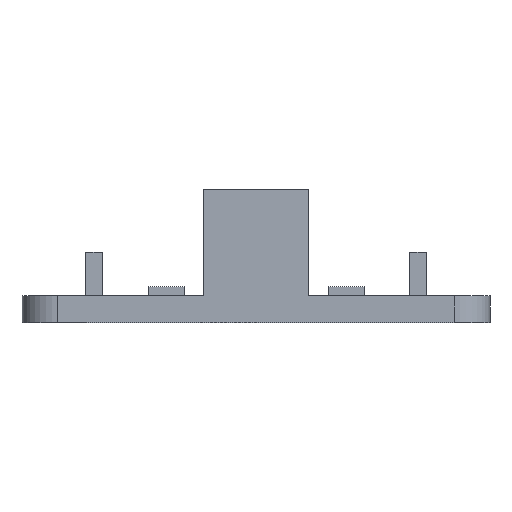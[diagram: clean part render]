
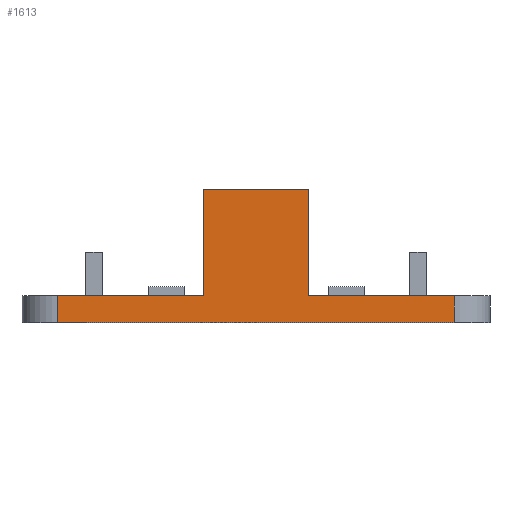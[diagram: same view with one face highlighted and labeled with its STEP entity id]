
A CAD part, left-side view. The second image highlights one B-rep face of the part: STEP entity #1613.
In plain terms, the highlighted planar face has unit normal (-1, 0, 0).
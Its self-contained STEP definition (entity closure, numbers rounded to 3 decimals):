
#44 = PLANE('',#45);
#45 = AXIS2_PLACEMENT_3D('',#46,#47,#48);
#46 = CARTESIAN_POINT('',(0.,0.,3.));
#47 = DIRECTION('',(0.,0.,-1.));
#48 = DIRECTION('',(1.,0.,0.));
#72 = CYLINDRICAL_SURFACE('',#73,4.);
#73 = AXIS2_PLACEMENT_3D('',#74,#75,#76);
#74 = CARTESIAN_POINT('',(-27.,22.,3.));
#75 = DIRECTION('',(0.,0.,-1.));
#76 = DIRECTION('',(0.,1.,0.));
#100 = PLANE('',#101);
#101 = AXIS2_PLACEMENT_3D('',#102,#103,#104);
#102 = CARTESIAN_POINT('',(0.,0.,0.));
#103 = DIRECTION('',(0.,0.,-1.));
#104 = DIRECTION('',(1.,0.,0.));
#142 = VERTEX_POINT('',#143);
#143 = CARTESIAN_POINT('',(-31.,22.,3.));
#280 = VERTEX_POINT('',#281);
#281 = CARTESIAN_POINT('',(-31.,-22.,3.));
#296 = CYLINDRICAL_SURFACE('',#297,4.);
#297 = AXIS2_PLACEMENT_3D('',#298,#299,#300);
#298 = CARTESIAN_POINT('',(-27.,-22.,3.));
#299 = DIRECTION('',(0.,0.,-1.));
#300 = DIRECTION('',(0.,-1.,0.));
#308 = EDGE_CURVE('',#280,#309,#311,.T.);
#309 = VERTEX_POINT('',#310);
#310 = CARTESIAN_POINT('',(-31.,-5.85,3.));
#311 = SURFACE_CURVE('',#312,(#316,#323),.PCURVE_S1.);
#312 = LINE('',#313,#314);
#313 = CARTESIAN_POINT('',(-31.,-26.,3.));
#314 = VECTOR('',#315,1.);
#315 = DIRECTION('',(0.,1.,0.));
#316 = PCURVE('',#44,#317);
#317 = DEFINITIONAL_REPRESENTATION('',(#318),#322);
#318 = LINE('',#319,#320);
#319 = CARTESIAN_POINT('',(-31.,26.));
#320 = VECTOR('',#321,1.);
#321 = DIRECTION('',(0.,-1.));
#322 = ( GEOMETRIC_REPRESENTATION_CONTEXT(2) 
PARAMETRIC_REPRESENTATION_CONTEXT() REPRESENTATION_CONTEXT('2D SPACE',''
  ) );
#323 = PCURVE('',#324,#329);
#324 = PLANE('',#325);
#325 = AXIS2_PLACEMENT_3D('',#326,#327,#328);
#326 = CARTESIAN_POINT('',(-31.,-26.,3.));
#327 = DIRECTION('',(1.,0.,0.));
#328 = DIRECTION('',(0.,1.,0.));
#329 = DEFINITIONAL_REPRESENTATION('',(#330),#334);
#330 = LINE('',#331,#332);
#331 = CARTESIAN_POINT('',(0.,0.));
#332 = VECTOR('',#333,1.);
#333 = DIRECTION('',(1.,0.));
#334 = ( GEOMETRIC_REPRESENTATION_CONTEXT(2) 
PARAMETRIC_REPRESENTATION_CONTEXT() REPRESENTATION_CONTEXT('2D SPACE',''
  ) );
#352 = PLANE('',#353);
#353 = AXIS2_PLACEMENT_3D('',#354,#355,#356);
#354 = CARTESIAN_POINT('',(-31.,-5.85,14.8));
#355 = DIRECTION('',(0.,-1.,0.));
#356 = DIRECTION('',(0.,0.,-1.));
#393 = VERTEX_POINT('',#394);
#394 = CARTESIAN_POINT('',(-31.,5.85,3.));
#408 = PLANE('',#409);
#409 = AXIS2_PLACEMENT_3D('',#410,#411,#412);
#410 = CARTESIAN_POINT('',(-31.,5.85,14.8));
#411 = DIRECTION('',(0.,-1.,0.));
#412 = DIRECTION('',(0.,0.,-1.));
#420 = EDGE_CURVE('',#393,#142,#421,.T.);
#421 = SURFACE_CURVE('',#422,(#426,#433),.PCURVE_S1.);
#422 = LINE('',#423,#424);
#423 = CARTESIAN_POINT('',(-31.,-26.,3.));
#424 = VECTOR('',#425,1.);
#425 = DIRECTION('',(0.,1.,0.));
#426 = PCURVE('',#44,#427);
#427 = DEFINITIONAL_REPRESENTATION('',(#428),#432);
#428 = LINE('',#429,#430);
#429 = CARTESIAN_POINT('',(-31.,26.));
#430 = VECTOR('',#431,1.);
#431 = DIRECTION('',(0.,-1.));
#432 = ( GEOMETRIC_REPRESENTATION_CONTEXT(2) 
PARAMETRIC_REPRESENTATION_CONTEXT() REPRESENTATION_CONTEXT('2D SPACE',''
  ) );
#433 = PCURVE('',#324,#434);
#434 = DEFINITIONAL_REPRESENTATION('',(#435),#439);
#435 = LINE('',#436,#437);
#436 = CARTESIAN_POINT('',(0.,0.));
#437 = VECTOR('',#438,1.);
#438 = DIRECTION('',(1.,0.));
#439 = ( GEOMETRIC_REPRESENTATION_CONTEXT(2) 
PARAMETRIC_REPRESENTATION_CONTEXT() REPRESENTATION_CONTEXT('2D SPACE',''
  ) );
#1269 = EDGE_CURVE('',#142,#1270,#1272,.T.);
#1270 = VERTEX_POINT('',#1271);
#1271 = CARTESIAN_POINT('',(-31.,22.,0.));
#1272 = SURFACE_CURVE('',#1273,(#1277,#1284),.PCURVE_S1.);
#1273 = LINE('',#1274,#1275);
#1274 = CARTESIAN_POINT('',(-31.,22.,3.));
#1275 = VECTOR('',#1276,1.);
#1276 = DIRECTION('',(0.,0.,-1.));
#1277 = PCURVE('',#72,#1278);
#1278 = DEFINITIONAL_REPRESENTATION('',(#1279),#1283);
#1279 = LINE('',#1280,#1281);
#1280 = CARTESIAN_POINT('',(-1.571,0.));
#1281 = VECTOR('',#1282,1.);
#1282 = DIRECTION('',(-0.,1.));
#1283 = ( GEOMETRIC_REPRESENTATION_CONTEXT(2) 
PARAMETRIC_REPRESENTATION_CONTEXT() REPRESENTATION_CONTEXT('2D SPACE',''
  ) );
#1284 = PCURVE('',#324,#1285);
#1285 = DEFINITIONAL_REPRESENTATION('',(#1286),#1290);
#1286 = LINE('',#1287,#1288);
#1287 = CARTESIAN_POINT('',(48.,0.));
#1288 = VECTOR('',#1289,1.);
#1289 = DIRECTION('',(0.,-1.));
#1290 = ( GEOMETRIC_REPRESENTATION_CONTEXT(2) 
PARAMETRIC_REPRESENTATION_CONTEXT() REPRESENTATION_CONTEXT('2D SPACE',''
  ) );
#1445 = VERTEX_POINT('',#1446);
#1446 = CARTESIAN_POINT('',(-31.,-22.,0.));
#1468 = EDGE_CURVE('',#1445,#1270,#1469,.T.);
#1469 = SURFACE_CURVE('',#1470,(#1474,#1481),.PCURVE_S1.);
#1470 = LINE('',#1471,#1472);
#1471 = CARTESIAN_POINT('',(-31.,-26.,0.));
#1472 = VECTOR('',#1473,1.);
#1473 = DIRECTION('',(0.,1.,0.));
#1474 = PCURVE('',#100,#1475);
#1475 = DEFINITIONAL_REPRESENTATION('',(#1476),#1480);
#1476 = LINE('',#1477,#1478);
#1477 = CARTESIAN_POINT('',(-31.,26.));
#1478 = VECTOR('',#1479,1.);
#1479 = DIRECTION('',(0.,-1.));
#1480 = ( GEOMETRIC_REPRESENTATION_CONTEXT(2) 
PARAMETRIC_REPRESENTATION_CONTEXT() REPRESENTATION_CONTEXT('2D SPACE',''
  ) );
#1481 = PCURVE('',#324,#1482);
#1482 = DEFINITIONAL_REPRESENTATION('',(#1483),#1487);
#1483 = LINE('',#1484,#1485);
#1484 = CARTESIAN_POINT('',(0.,-3.));
#1485 = VECTOR('',#1486,1.);
#1486 = DIRECTION('',(1.,0.));
#1487 = ( GEOMETRIC_REPRESENTATION_CONTEXT(2) 
PARAMETRIC_REPRESENTATION_CONTEXT() REPRESENTATION_CONTEXT('2D SPACE',''
  ) );
#1613 = ADVANCED_FACE('',(#1614),#324,.F.);
#1614 = FACE_BOUND('',#1615,.F.);
#1615 = EDGE_LOOP('',(#1616,#1617,#1638,#1639,#1640,#1641,#1664,#1692));
#1616 = ORIENTED_EDGE('',*,*,#308,.F.);
#1617 = ORIENTED_EDGE('',*,*,#1618,.T.);
#1618 = EDGE_CURVE('',#280,#1445,#1619,.T.);
#1619 = SURFACE_CURVE('',#1620,(#1624,#1631),.PCURVE_S1.);
#1620 = LINE('',#1621,#1622);
#1621 = CARTESIAN_POINT('',(-31.,-22.,3.));
#1622 = VECTOR('',#1623,1.);
#1623 = DIRECTION('',(0.,0.,-1.));
#1624 = PCURVE('',#324,#1625);
#1625 = DEFINITIONAL_REPRESENTATION('',(#1626),#1630);
#1626 = LINE('',#1627,#1628);
#1627 = CARTESIAN_POINT('',(4.,0.));
#1628 = VECTOR('',#1629,1.);
#1629 = DIRECTION('',(0.,-1.));
#1630 = ( GEOMETRIC_REPRESENTATION_CONTEXT(2) 
PARAMETRIC_REPRESENTATION_CONTEXT() REPRESENTATION_CONTEXT('2D SPACE',''
  ) );
#1631 = PCURVE('',#296,#1632);
#1632 = DEFINITIONAL_REPRESENTATION('',(#1633),#1637);
#1633 = LINE('',#1634,#1635);
#1634 = CARTESIAN_POINT('',(1.571,0.));
#1635 = VECTOR('',#1636,1.);
#1636 = DIRECTION('',(0.,1.));
#1637 = ( GEOMETRIC_REPRESENTATION_CONTEXT(2) 
PARAMETRIC_REPRESENTATION_CONTEXT() REPRESENTATION_CONTEXT('2D SPACE',''
  ) );
#1638 = ORIENTED_EDGE('',*,*,#1468,.T.);
#1639 = ORIENTED_EDGE('',*,*,#1269,.F.);
#1640 = ORIENTED_EDGE('',*,*,#420,.F.);
#1641 = ORIENTED_EDGE('',*,*,#1642,.F.);
#1642 = EDGE_CURVE('',#1643,#393,#1645,.T.);
#1643 = VERTEX_POINT('',#1644);
#1644 = CARTESIAN_POINT('',(-31.,5.85,14.8));
#1645 = SURFACE_CURVE('',#1646,(#1650,#1657),.PCURVE_S1.);
#1646 = LINE('',#1647,#1648);
#1647 = CARTESIAN_POINT('',(-31.,5.85,14.8));
#1648 = VECTOR('',#1649,1.);
#1649 = DIRECTION('',(0.,0.,-1.));
#1650 = PCURVE('',#324,#1651);
#1651 = DEFINITIONAL_REPRESENTATION('',(#1652),#1656);
#1652 = LINE('',#1653,#1654);
#1653 = CARTESIAN_POINT('',(31.85,11.8));
#1654 = VECTOR('',#1655,1.);
#1655 = DIRECTION('',(0.,-1.));
#1656 = ( GEOMETRIC_REPRESENTATION_CONTEXT(2) 
PARAMETRIC_REPRESENTATION_CONTEXT() REPRESENTATION_CONTEXT('2D SPACE',''
  ) );
#1657 = PCURVE('',#408,#1658);
#1658 = DEFINITIONAL_REPRESENTATION('',(#1659),#1663);
#1659 = LINE('',#1660,#1661);
#1660 = CARTESIAN_POINT('',(0.,0.));
#1661 = VECTOR('',#1662,1.);
#1662 = DIRECTION('',(1.,0.));
#1663 = ( GEOMETRIC_REPRESENTATION_CONTEXT(2) 
PARAMETRIC_REPRESENTATION_CONTEXT() REPRESENTATION_CONTEXT('2D SPACE',''
  ) );
#1664 = ORIENTED_EDGE('',*,*,#1665,.T.);
#1665 = EDGE_CURVE('',#1643,#1666,#1668,.T.);
#1666 = VERTEX_POINT('',#1667);
#1667 = CARTESIAN_POINT('',(-31.,-5.85,14.8));
#1668 = SURFACE_CURVE('',#1669,(#1673,#1680),.PCURVE_S1.);
#1669 = LINE('',#1670,#1671);
#1670 = CARTESIAN_POINT('',(-31.,5.85,14.8));
#1671 = VECTOR('',#1672,1.);
#1672 = DIRECTION('',(0.,-1.,0.));
#1673 = PCURVE('',#324,#1674);
#1674 = DEFINITIONAL_REPRESENTATION('',(#1675),#1679);
#1675 = LINE('',#1676,#1677);
#1676 = CARTESIAN_POINT('',(31.85,11.8));
#1677 = VECTOR('',#1678,1.);
#1678 = DIRECTION('',(-1.,0.));
#1679 = ( GEOMETRIC_REPRESENTATION_CONTEXT(2) 
PARAMETRIC_REPRESENTATION_CONTEXT() REPRESENTATION_CONTEXT('2D SPACE',''
  ) );
#1680 = PCURVE('',#1681,#1686);
#1681 = PLANE('',#1682);
#1682 = AXIS2_PLACEMENT_3D('',#1683,#1684,#1685);
#1683 = CARTESIAN_POINT('',(-31.,5.85,14.8));
#1684 = DIRECTION('',(0.,0.,-1.));
#1685 = DIRECTION('',(1.,0.,0.));
#1686 = DEFINITIONAL_REPRESENTATION('',(#1687),#1691);
#1687 = LINE('',#1688,#1689);
#1688 = CARTESIAN_POINT('',(0.,0.));
#1689 = VECTOR('',#1690,1.);
#1690 = DIRECTION('',(0.,1.));
#1691 = ( GEOMETRIC_REPRESENTATION_CONTEXT(2) 
PARAMETRIC_REPRESENTATION_CONTEXT() REPRESENTATION_CONTEXT('2D SPACE',''
  ) );
#1692 = ORIENTED_EDGE('',*,*,#1693,.T.);
#1693 = EDGE_CURVE('',#1666,#309,#1694,.T.);
#1694 = SURFACE_CURVE('',#1695,(#1699,#1706),.PCURVE_S1.);
#1695 = LINE('',#1696,#1697);
#1696 = CARTESIAN_POINT('',(-31.,-5.85,14.8));
#1697 = VECTOR('',#1698,1.);
#1698 = DIRECTION('',(0.,0.,-1.));
#1699 = PCURVE('',#324,#1700);
#1700 = DEFINITIONAL_REPRESENTATION('',(#1701),#1705);
#1701 = LINE('',#1702,#1703);
#1702 = CARTESIAN_POINT('',(20.15,11.8));
#1703 = VECTOR('',#1704,1.);
#1704 = DIRECTION('',(0.,-1.));
#1705 = ( GEOMETRIC_REPRESENTATION_CONTEXT(2) 
PARAMETRIC_REPRESENTATION_CONTEXT() REPRESENTATION_CONTEXT('2D SPACE',''
  ) );
#1706 = PCURVE('',#352,#1707);
#1707 = DEFINITIONAL_REPRESENTATION('',(#1708),#1712);
#1708 = LINE('',#1709,#1710);
#1709 = CARTESIAN_POINT('',(0.,0.));
#1710 = VECTOR('',#1711,1.);
#1711 = DIRECTION('',(1.,0.));
#1712 = ( GEOMETRIC_REPRESENTATION_CONTEXT(2) 
PARAMETRIC_REPRESENTATION_CONTEXT() REPRESENTATION_CONTEXT('2D SPACE',''
  ) );
